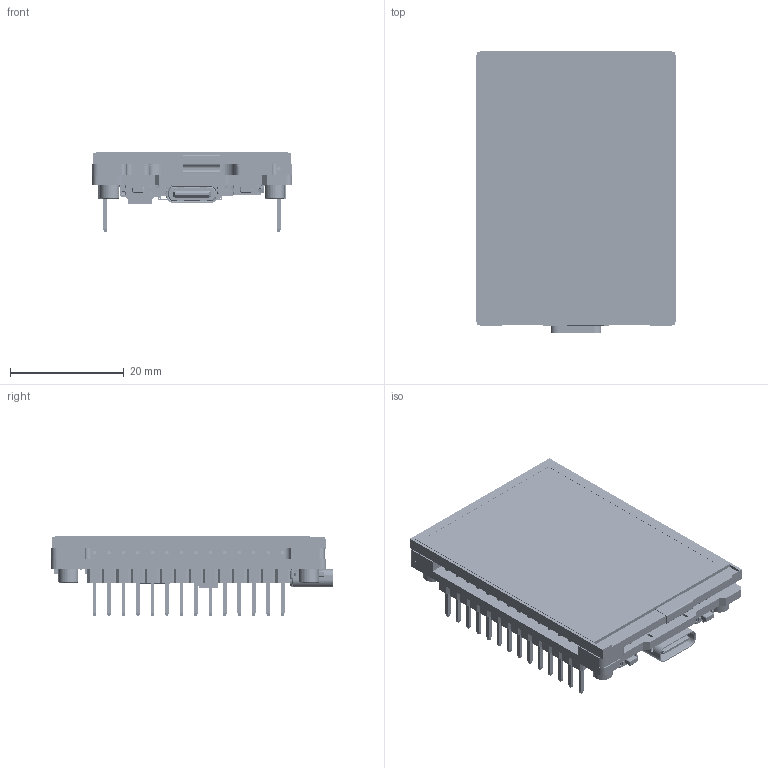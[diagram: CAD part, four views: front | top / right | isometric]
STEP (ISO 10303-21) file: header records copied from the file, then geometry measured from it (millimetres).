
FILE_DESCRIPTION((''),'2;1');
FILE_NAME('ESP32-S3-TOUCH-LCD-2_ASM','2025-01-22T11:28:11',('xiaojisheng'),(''),'CREO PARAMETRIC BY PTC INC, 2021063','CREO PARAMETRIC BY PTC INC, 2021063','');
FILE_SCHEMA(('CONFIG_CONTROL_DESIGN','SHAPE_APPEARANCE_LAYERS_GROUPS'));
Products named in the file (177): HXR20062C21-LCM; HXR20062C21_ASM; BOARD; USER_LIBRARY-RES_0603-0201_1; USER_LIBRARY-RES_0603-0201_2; USER_LIBRARY-RES_0603-0201_3; USER_LIBRARY-RES_0603-0201_4; USER_LIBRARY-RES_0603-0201_ASM; L2_ASM; SOT23-5AND6_00; SOT23-5-14065_AF0; SOT23-5-14113_AF0_ASM_ASM; SOT23-5-2_ASM; U7_ASM; R27_ASM; R24_ASM; R22_ASM; USER_LIBRARY-LED_0603_R_P-73782; USER_LIBRARY-LED_0603_R_PAD004; USER_LIBRARY-LED_0603_R_FILLET; USER_LIBRARY-LED_0603_R_P-76137; USER_LIBRARY-LED_0603_R_PAD; USER_LIBRARY-LED_0603_R_ASM; LED2_ASM; USER_LIBRARY-0201_0603M__CAP_1; USER_LIBRARY-0201_0603M__CAP_2; USER_LIBRARY-0201_0603M__CAP_3; USER_LIBRARY-0201_0603M__CAP_ASM; C11_ASM; C12_ASM; C19_ASM; C30_ASM; C17_ASM; C29_ASM; C13_ASM; C3_ASM; _1_10001; 3_1_A; 2_100; C_0402-672_AF0_ASM_ASM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
Assembly tree (252 placements, depth 9):
  ESP32-S3-TOUCH-LCD-2_ASM
    HXR20062C21_ASM
      HXR20062C21-LCM
    ESP32-S3-TOUCH-LCD-2-PCBA_ASM
      ESP32-S3-TOUCH-LCD-2-PCB_ASM
        PCB_ASM
          BOARD
          L2_ASM
            USER_LIBRARY-RES_0603-0201_ASM
              USER_LIBRARY-RES_0603-0201_1
              USER_LIBRARY-RES_0603-0201_2
              USER_LIBRARY-RES_0603-0201_3
              USER_LIBRARY-RES_0603-0201_4
          U7_ASM
            SOT23-5-2_ASM
              SOT23-5-14113_AF0_ASM_ASM
                SOT23-5AND6_00  x5
                SOT23-5-14065_AF0
          R27_ASM
            USER_LIBRARY-RES_0603-0201_ASM
              USER_LIBRARY-RES_0603-0201_1
              USER_LIBRARY-RES_0603-0201_2
              USER_LIBRARY-RES_0603-0201_3
              USER_LIBRARY-RES_0603-0201_4
          R24_ASM
            USER_LIBRARY-RES_0603-0201_ASM
              USER_LIBRARY-RES_0603-0201_1
              USER_LIBRARY-RES_0603-0201_2
              USER_LIBRARY-RES_0603-0201_3
              USER_LIBRARY-RES_0603-0201_4
          R22_ASM
            USER_LIBRARY-RES_0603-0201_ASM
              USER_LIBRARY-RES_0603-0201_1
              USER_LIBRARY-RES_0603-0201_2
              USER_LIBRARY-RES_0603-0201_3
              USER_LIBRARY-RES_0603-0201_4
          LED2_ASM
            USER_LIBRARY-LED_0603_R_ASM
              USER_LIBRARY-LED_0603_R_P-73782
              USER_LIBRARY-LED_0603_R_PAD004
              USER_LIBRARY-LED_0603_R_FILLET
              USER_LIBRARY-LED_0603_R_P-76137
              USER_LIBRARY-LED_0603_R_PAD
          C11_ASM
            USER_LIBRARY-0201_0603M__CAP_ASM
              USER_LIBRARY-0201_0603M__CAP_1
              USER_LIBRARY-0201_0603M__CAP_2
              USER_LIBRARY-0201_0603M__CAP_3
          C12_ASM
            USER_LIBRARY-0201_0603M__CAP_ASM
              USER_LIBRARY-0201_0603M__CAP_1
              USER_LIBRARY-0201_0603M__CAP_2
              USER_LIBRARY-0201_0603M__CAP_3
          C19_ASM
            USER_LIBRARY-0201_0603M__CAP_ASM
              USER_LIBRARY-0201_0603M__CAP_1
              USER_LIBRARY-0201_0603M__CAP_2
              USER_LIBRARY-0201_0603M__CAP_3
          C30_ASM
            USER_LIBRARY-0201_0603M__CAP_ASM
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Bounding box: 35.02 x 49.4 x 14 mm (x, y, z)
Volume: 8635.1 mm3; surface area: 15382.3 mm2
Topology: 324 solids, 339 shells, 17921 faces, 47199 edges, 30607 vertices
Faces by surface type: plane 11962, extrusion 3295, cylinder 2199, sphere 331, cone 60, torus 40, bspline 34
Entity records: 307598 total; most frequent: CARTESIAN_POINT 64109, ORIENTED_EDGE 40082, DIRECTION 36453, EDGE_CURVE 20044, VECTOR 16575, LINE 15995, PRESENTATION_STYLE_ASSIGNMENT 14879, STYLED_ITEM 13917
